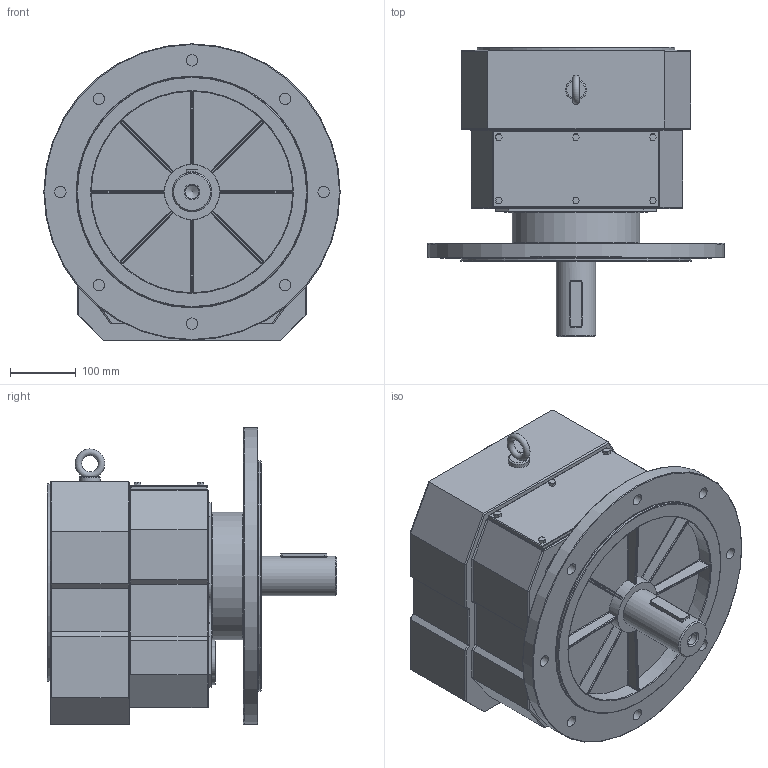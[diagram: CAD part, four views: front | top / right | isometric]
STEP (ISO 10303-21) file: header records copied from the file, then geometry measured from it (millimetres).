
FILE_DESCRIPTION((''),'2;1');
FILE_NAME('D:\PAWEŁ\ZLECENIA\2011 DualSystem\Przekładnie DR\DR90\STEP\DRF90_fi 450.stp','2012-06-11T12:18:58',('admin'),(''),'Autodesk Inventor 2009','Autodesk Inventor 2009','');
FILE_SCHEMA(('AUTOMOTIVE_DESIGN { 1 0 10303 214 1 1 1 1 }'));
Length unit declared in the file: millimetre
Products named in the file (1): DRF90_fi 450
Bounding box: 450 x 440 x 450 mm (x, y, z)
Volume: 31692331.4 mm3; surface area: 1042998.2 mm2
Topology: 2 solids, 2 shells, 516 faces, 1214 edges, 686 vertices
Faces by surface type: cylinder 231, plane 165, bspline 55, sphere 44, torus 19, cone 2
Full cylindrical faces by diameter (mm): 32 x1, 46.667 x1, 60 x2, 70 x1, 84 x1, 194 x1, 220 x1, 300 x1, 306 x1, 350 x1, 450 x1
Entity records: 17161 total; most frequent: CARTESIAN_POINT 5458, DIRECTION 2502, ORIENTED_EDGE 2272, EDGE_CURVE 1136, AXIS2_PLACEMENT_3D 947, VERTEX_POINT 681, VECTOR 608, LINE 608
